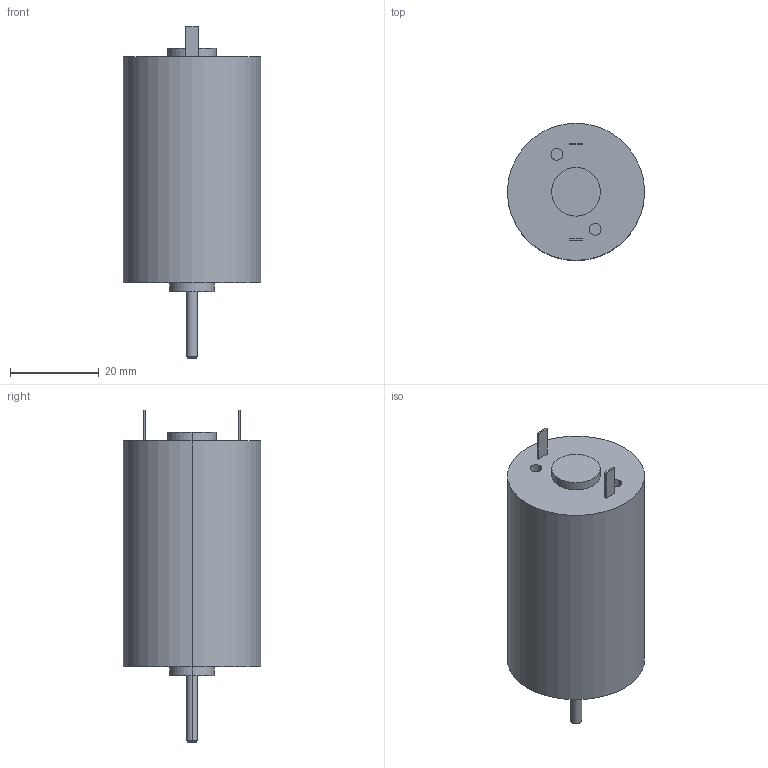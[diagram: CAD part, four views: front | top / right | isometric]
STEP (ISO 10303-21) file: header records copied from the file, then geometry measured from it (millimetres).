
FILE_DESCRIPTION (( 'STEP AP214' ), '1' );
FILE_NAME ('1_13_021_343.STEP', '2015-08-04T07:20:22', ( '' ), ( '' ), 'SwSTEP 2.0', 'SolidWorks 2014', '' );
FILE_SCHEMA (( 'AUTOMOTIVE_DESIGN' ));
Length unit declared in the file: millimetre
Products named in the file (3): Assembly-1; 1_13_021_343; 1.13.021.34X_Einbaudummy
Assembly tree (2 placements, depth 3):
  1_13_021_343
    Assembly-1
      1.13.021.34X_Einbaudummy
Bounding box: 31 x 31 x 75 mm (x, y, z)
Volume: 38682.5 mm3; surface area: 7166.1 mm2
Topology: 1 solids, 1 shells, 49 faces, 100 edges, 66 vertices
Faces by surface type: cylinder 24, plane 23, cone 2
Entity records: 1400 total; most frequent: DIRECTION 260, CARTESIAN_POINT 221, ORIENTED_EDGE 200, AXIS2_PLACEMENT_3D 105, EDGE_CURVE 100, VERTEX_POINT 66, EDGE_LOOP 62, LINE 50
